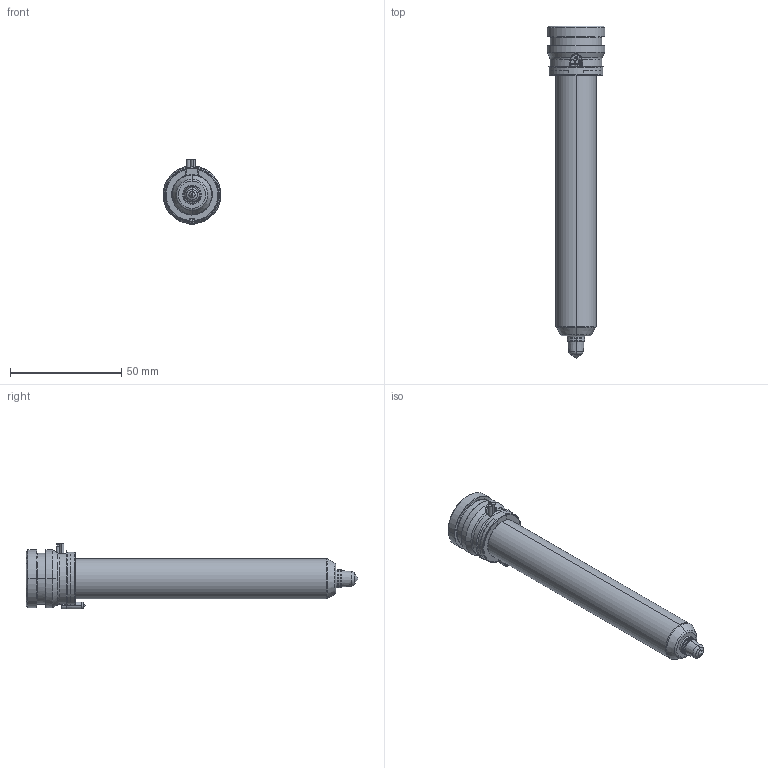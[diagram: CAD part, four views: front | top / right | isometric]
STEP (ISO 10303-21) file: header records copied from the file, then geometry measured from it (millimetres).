
FILE_DESCRIPTION((''),'2;1');
FILE_NAME('TH18131-A-1B50-PK-JG','2023-12-14T',('umhib'),('Thermoplay S.p.A.'),'PRO/ENGINEER BY PARAMETRIC TECHNOLOGY CORPORATION, 2017170','PRO/ENGINEER BY PARAMETRIC TECHNOLOGY CORPORATION, 2017170','');
FILE_SCHEMA(('CONFIG_CONTROL_DESIGN'));
Length unit declared in the file: millimetre
Products named in the file (1): TH18131-A-1B50-PK-JG
Bounding box: 26 x 149 x 29.5 mm (x, y, z)
Volume: 29574.2 mm3; surface area: 21617.5 mm2
Topology: 1 solids, 2 shells, 394 faces, 1026 edges, 637 vertices
Faces by surface type: cylinder 151, plane 85, cone 66, torus 54, bspline 24, sphere 12, extrusion 2
Entity records: 17998 total; most frequent: CARTESIAN_POINT 6175, ORIENTED_EDGE 2028, DIRECTION 2015, EDGE_CURVE 1016, AXIS2_PLACEMENT_3D 808, VERTEX_POINT 637, CIRCLE 439, EDGE_LOOP 414
